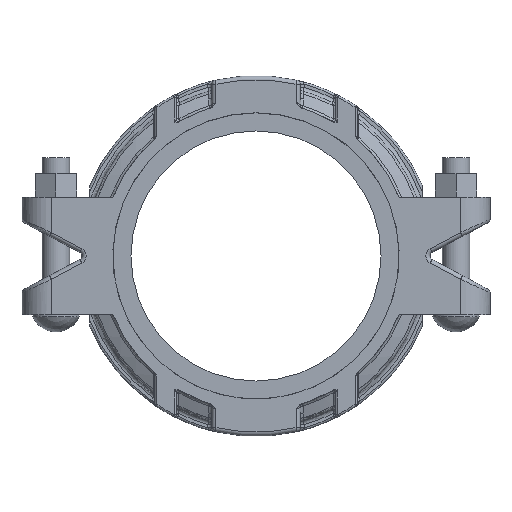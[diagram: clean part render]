
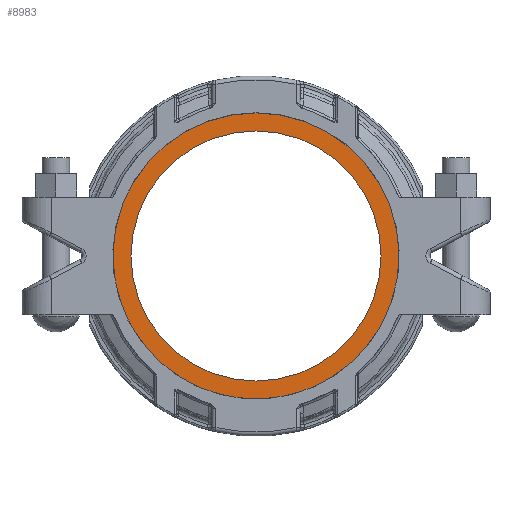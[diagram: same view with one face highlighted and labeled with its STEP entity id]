
A CAD part, top view. The second image highlights one B-rep face of the part: STEP entity #8983.
In plain terms, the highlighted planar face has unit normal (0, 0, 1).
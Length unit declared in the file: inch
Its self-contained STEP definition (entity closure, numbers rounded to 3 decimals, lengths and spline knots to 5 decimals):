
#1667=FACE_BOUND('',#2267,.T.);
#1686=FACE_OUTER_BOUND('',#2266,.T.);
#2266=EDGE_LOOP('',(#5606,#5607));
#2267=EDGE_LOOP('',(#5608));
#2862=CIRCLE('',#9584,3.985);
#2863=CIRCLE('',#9586,4.5625);
#2864=CIRCLE('',#9587,4.5625);
#3451=VERTEX_POINT('',#13057);
#3452=VERTEX_POINT('',#13061);
#3453=VERTEX_POINT('',#13062);
#4245=EDGE_CURVE('',#3451,#3451,#2862,.T.);
#4246=EDGE_CURVE('',#3452,#3453,#2863,.T.);
#4247=EDGE_CURVE('',#3453,#3452,#2864,.T.);
#5606=ORIENTED_EDGE('',*,*,#4246,.F.);
#5607=ORIENTED_EDGE('',*,*,#4247,.F.);
#5608=ORIENTED_EDGE('',*,*,#4245,.T.);
#8317=PLANE('',#9585);
#8983=ADVANCED_FACE('',(#1686,#1667),#8317,.T.);
#9584=AXIS2_PLACEMENT_3D('',#13059,#10628,#10629);
#9585=AXIS2_PLACEMENT_3D('',#13060,#10630,#10631);
#9586=AXIS2_PLACEMENT_3D('',#13063,#10632,#10633);
#9587=AXIS2_PLACEMENT_3D('',#13064,#10634,#10635);
#10628=DIRECTION('center_axis',(0.,0.,-1.));
#10629=DIRECTION('ref_axis',(1.,0.,0.));
#10630=DIRECTION('center_axis',(0.,0.,1.));
#10631=DIRECTION('ref_axis',(-1.,0.,0.));
#10632=DIRECTION('center_axis',(0.,0.,-1.));
#10633=DIRECTION('ref_axis',(0.,-1.,0.));
#10634=DIRECTION('center_axis',(0.,0.,-1.));
#10635=DIRECTION('ref_axis',(0.,-1.,0.));
#13057=CARTESIAN_POINT('',(-3.985,0.,0.0325));
#13059=CARTESIAN_POINT('Origin',(0.,0.,
0.0325));
#13060=CARTESIAN_POINT('Origin',(0.,0.,
0.0325));
#13061=CARTESIAN_POINT('',(-4.5625,0.,0.0325));
#13062=CARTESIAN_POINT('',(0.,4.5625,0.0325));
#13063=CARTESIAN_POINT('Origin',(0.,0.,
0.0325));
#13064=CARTESIAN_POINT('Origin',(0.,0.,
0.0325));
